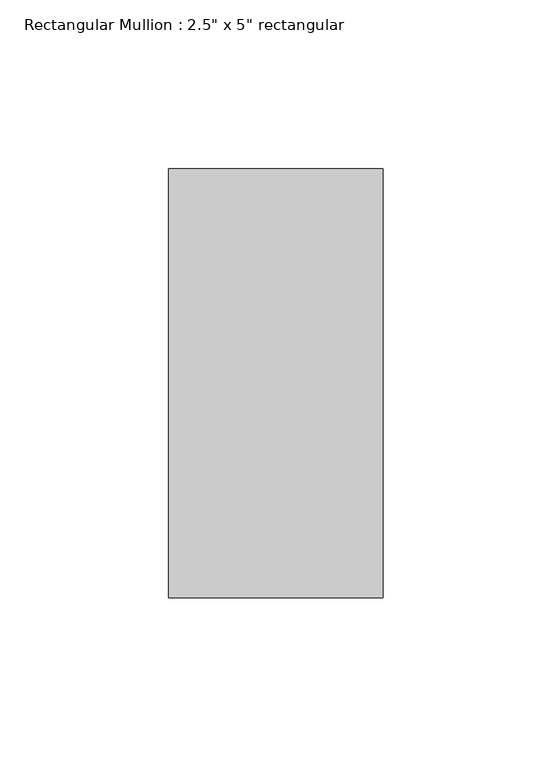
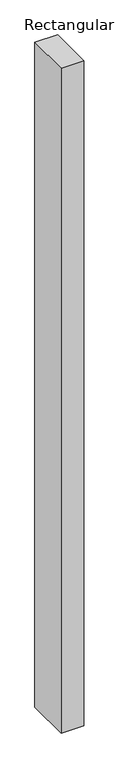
"""IFC4 building model written with IfcOpenShell, lengths in millimetres: member geometry."""

from ifc_helpers import new_model, si_unit, frame, origin, place, context, project, spatial, polyline, outline, extrude, source, transform, mapped, element, save


def member_320d1225(model_context):
    return source(origin(), model_context, "Body", "SweptSolid", [
        extrude(outline(polyline([(0.0, 63.5), (0.0, -63.5), (-63.5, -63.5), (-63.5, 63.5), (0.0, 63.5)])), frame((0.0, 0.0, -1972.359504), z_axis=(0.0, 0.0, 1.0), x_axis=(1.0, 0.0, 0.0)), (0.0, 0.0, 1.0), 1972.359504),
    ])


if __name__ == "__main__":
    model = new_model("IFC4")
    model_context = context("Model", 3, world=origin())
    ifc_project = project(units=[si_unit("LENGTHUNIT", "METRE", prefix="MILLI")], contexts=[model_context])
    site = spatial("IfcSite", under=ifc_project)
    building = spatial("IfcBuilding", under=site)
    placement = place(None, origin())
    member_shape = member_320d1225(model_context)
    element("IfcMember", 1, ObjectType="Rectangular Mullion : 2.5\" x 5\" rectangular", at=placement, inside=building, context=model_context, shape_type="MappedRepresentation", body=[
        mapped(member_shape, transform((0.0, 0.0, 0.0), x_axis=(1.0, 0.0, 0.0), y_axis=(0.0, 1.0, 0.0), z_axis=(0.0, 0.0, 1.0))),
    ])
    save(model, "model.ifc")
